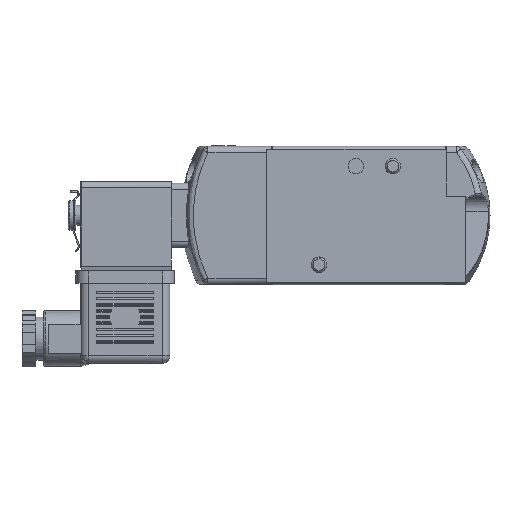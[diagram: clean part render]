
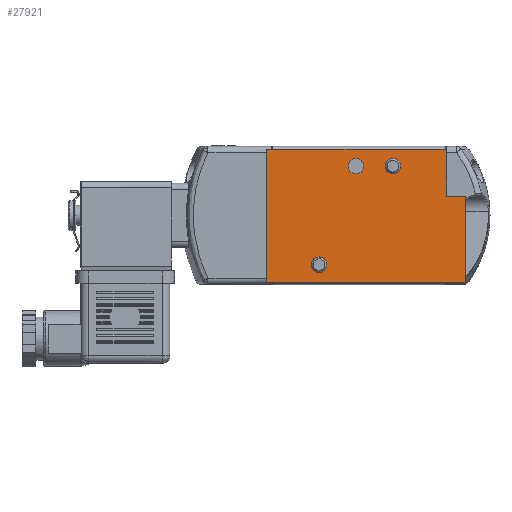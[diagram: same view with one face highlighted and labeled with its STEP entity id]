
A CAD part, front view. The second image highlights one B-rep face of the part: STEP entity #27921.
In plain terms, the highlighted planar face has unit normal (0, -1, 0) as drawn and (0, 0, -1) by its records, which use the part's own axes.
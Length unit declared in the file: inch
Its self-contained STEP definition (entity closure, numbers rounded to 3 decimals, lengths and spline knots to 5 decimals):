
#452 = CARTESIAN_POINT ( 'NONE',  ( -1.15, -0.85, 0. ) ) ;
#484 = EDGE_LOOP ( 'NONE', ( #27133, #13539, #15127, #22185, #4421, #15513 ) ) ;
#597 = FACE_BOUND ( 'NONE', #9701, .T. ) ;
#1103 = EDGE_CURVE ( 'NONE', #19065, #1331, #13565, .T. ) ;
#1110 = CARTESIAN_POINT ( 'NONE',  ( -0.58, 0.625, 0. ) ) ;
#1149 = EDGE_CURVE ( 'NONE', #22228, #34088, #20203, .T. ) ;
#1331 = VERTEX_POINT ( 'NONE', #35411 ) ;
#1804 = EDGE_LOOP ( 'NONE', ( #25902, #3736 ) ) ;
#2056 = VERTEX_POINT ( 'NONE', #10187 ) ;
#2729 = AXIS2_PLACEMENT_3D ( 'NONE', #23150, #11717, #34083 ) ;
#2733 = CARTESIAN_POINT ( 'NONE',  ( -1.15, -0.85, 0. ) ) ;
#3736 = ORIENTED_EDGE ( 'NONE', *, *, #12828, .T. ) ;
#4253 = LINE ( 'NONE', #26393, #16836 ) ;
#4421 = ORIENTED_EDGE ( 'NONE', *, *, #16964, .F. ) ;
#4550 = AXIS2_PLACEMENT_3D ( 'NONE', #22570, #33501, #25076 ) ;
#4743 = AXIS2_PLACEMENT_3D ( 'NONE', #22346, #6135, #19822 ) ;
#4943 = VECTOR ( 'NONE', #32996, 39.37008 ) ;
#4966 = VERTEX_POINT ( 'NONE', #1110 ) ;
#5108 = CARTESIAN_POINT ( 'NONE',  ( -0.48, 0.625, 0. ) ) ;
#5602 = VERTEX_POINT ( 'NONE', #8388 ) ;
#6135 = DIRECTION ( 'NONE',  ( 0., 0., 1. ) ) ;
#6506 = CARTESIAN_POINT ( 'NONE',  ( -1.15, -0.85, 0. ) ) ;
#8076 = VECTOR ( 'NONE', #16478, 39.37008 ) ;
#8114 = VECTOR ( 'NONE', #12294, 39.37008 ) ;
#8388 = CARTESIAN_POINT ( 'NONE',  ( 1.39615, -0.25, 0. ) ) ;
#8722 = FACE_BOUND ( 'NONE', #17486, .T. ) ;
#9086 = AXIS2_PLACEMENT_3D ( 'NONE', #18456, #29585, #35487 ) ;
#9701 = EDGE_LOOP ( 'NONE', ( #29691, #19854 ) ) ;
#10187 = CARTESIAN_POINT ( 'NONE',  ( 1.15, -0.25, 0. ) ) ;
#10346 = DIRECTION ( 'NONE',  ( 0., 0., 1. ) ) ;
#10816 = CIRCLE ( 'NONE', #2729, 0.1 ) ;
#11160 = CARTESIAN_POINT ( 'NONE',  ( 1.15, -0.85, 0. ) ) ;
#11595 = VECTOR ( 'NONE', #13745, 39.37008 ) ;
#11717 = DIRECTION ( 'NONE',  ( 0., 0., 1. ) ) ;
#11761 = CARTESIAN_POINT ( 'NONE',  ( 1.39615, 0.85, 0. ) ) ;
#11909 = DIRECTION ( 'NONE',  ( -1., 0., 0. ) ) ;
#12145 = VERTEX_POINT ( 'NONE', #27408 ) ;
#12294 = DIRECTION ( 'NONE',  ( 1., 0., 0. ) ) ;
#12693 = EDGE_CURVE ( 'NONE', #28618, #12145, #15720, .T. ) ;
#12828 = EDGE_CURVE ( 'NONE', #15020, #16859, #27763, .T. ) ;
#13114 = CARTESIAN_POINT ( 'NONE',  ( 1.39615, -0.25, 0. ) ) ;
#13539 = ORIENTED_EDGE ( 'NONE', *, *, #1149, .F. ) ;
#13565 = LINE ( 'NONE', #22176, #11595 ) ;
#13745 = DIRECTION ( 'NONE',  ( -1., 0., 0. ) ) ;
#14295 = CIRCLE ( 'NONE', #34335, 0.1 ) ;
#14402 = ORIENTED_EDGE ( 'NONE', *, *, #12693, .T. ) ;
#15020 = VERTEX_POINT ( 'NONE', #25859 ) ;
#15127 = ORIENTED_EDGE ( 'NONE', *, *, #34684, .F. ) ;
#15271 = DIRECTION ( 'NONE',  ( 0., 1., 0. ) ) ;
#15332 = CARTESIAN_POINT ( 'NONE',  ( 0.5649, -0.635, 0. ) ) ;
#15513 = ORIENTED_EDGE ( 'NONE', *, *, #31901, .T. ) ;
#15720 = CIRCLE ( 'NONE', #4743, 0.1 ) ;
#16478 = DIRECTION ( 'NONE',  ( 0., 1., 0. ) ) ;
#16629 = DIRECTION ( 'NONE',  ( 0., -1., 0. ) ) ;
#16836 = VECTOR ( 'NONE', #15271, 39.37008 ) ;
#16859 = VERTEX_POINT ( 'NONE', #30538 ) ;
#16964 = EDGE_CURVE ( 'NONE', #5602, #19065, #4253, .T. ) ;
#17146 = CIRCLE ( 'NONE', #9086, 0.1 ) ;
#17486 = EDGE_LOOP ( 'NONE', ( #14402, #19396 ) ) ;
#17497 = EDGE_CURVE ( 'NONE', #33432, #4966, #30630, .T. ) ;
#17668 = CARTESIAN_POINT ( 'NONE',  ( -0.0075, -0.635, 0. ) ) ;
#18456 = CARTESIAN_POINT ( 'NONE',  ( 0.4649, -0.635, 0. ) ) ;
#18762 = CARTESIAN_POINT ( 'NONE',  ( -0.38, 0.625, 0. ) ) ;
#19065 = VERTEX_POINT ( 'NONE', #11761 ) ;
#19333 = CARTESIAN_POINT ( 'NONE',  ( 1.15, -0.85, 0. ) ) ;
#19396 = ORIENTED_EDGE ( 'NONE', *, *, #26074, .T. ) ;
#19822 = DIRECTION ( 'NONE',  ( -1., 0., 0. ) ) ;
#19854 = ORIENTED_EDGE ( 'NONE', *, *, #26712, .T. ) ;
#20203 = LINE ( 'NONE', #6506, #8114 ) ;
#21860 = DIRECTION ( 'NONE',  ( -1., 0., 0. ) ) ;
#22176 = CARTESIAN_POINT ( 'NONE',  ( -1.15, 0.85, 0. ) ) ;
#22185 = ORIENTED_EDGE ( 'NONE', *, *, #1103, .F. ) ;
#22201 = PLANE ( 'NONE',  #4550 ) ;
#22228 = VERTEX_POINT ( 'NONE', #452 ) ;
#22346 = CARTESIAN_POINT ( 'NONE',  ( 0.4649, -0.635, 0. ) ) ;
#22570 = CARTESIAN_POINT ( 'NONE',  ( 1.15, 0.85, 0. ) ) ;
#23052 = DIRECTION ( 'NONE',  ( 0., 0., 1. ) ) ;
#23150 = CARTESIAN_POINT ( 'NONE',  ( -0.0075, -0.635, 0. ) ) ;
#23893 = LINE ( 'NONE', #13114, #4943 ) ;
#24218 = LINE ( 'NONE', #19333, #8076 ) ;
#24252 = FACE_OUTER_BOUND ( 'NONE', #484, .T. ) ;
#25076 = DIRECTION ( 'NONE',  ( -1., 0., 0. ) ) ;
#25859 = CARTESIAN_POINT ( 'NONE',  ( -0.1075, -0.635, 0. ) ) ;
#25902 = ORIENTED_EDGE ( 'NONE', *, *, #33783, .T. ) ;
#26074 = EDGE_CURVE ( 'NONE', #12145, #28618, #17146, .T. ) ;
#26393 = CARTESIAN_POINT ( 'NONE',  ( 1.39615, -0.25, 0. ) ) ;
#26637 = AXIS2_PLACEMENT_3D ( 'NONE', #17668, #23052, #11909 ) ;
#26712 = EDGE_CURVE ( 'NONE', #4966, #33432, #14295, .T. ) ;
#27133 = ORIENTED_EDGE ( 'NONE', *, *, #29491, .F. ) ;
#27389 = LINE ( 'NONE', #2733, #35506 ) ;
#27408 = CARTESIAN_POINT ( 'NONE',  ( 0.3649, -0.635, 0. ) ) ;
#27763 = CIRCLE ( 'NONE', #26637, 0.1 ) ;
#27921 = ADVANCED_FACE ( 'NONE', ( #33322, #8722, #597, #24252 ), #22201, .T. ) ;
#28618 = VERTEX_POINT ( 'NONE', #15332 ) ;
#29491 = EDGE_CURVE ( 'NONE', #34088, #2056, #24218, .T. ) ;
#29585 = DIRECTION ( 'NONE',  ( 0., 0., 1. ) ) ;
#29691 = ORIENTED_EDGE ( 'NONE', *, *, #17497, .T. ) ;
#30538 = CARTESIAN_POINT ( 'NONE',  ( 0.0925, -0.635, 0. ) ) ;
#30630 = CIRCLE ( 'NONE', #31766, 0.1 ) ;
#31766 = AXIS2_PLACEMENT_3D ( 'NONE', #5108, #10346, #21860 ) ;
#31901 = EDGE_CURVE ( 'NONE', #5602, #2056, #23893, .T. ) ;
#32469 = CARTESIAN_POINT ( 'NONE',  ( -0.48, 0.625, 0. ) ) ;
#32996 = DIRECTION ( 'NONE',  ( -1., 0., 0. ) ) ;
#33322 = FACE_BOUND ( 'NONE', #1804, .T. ) ;
#33432 = VERTEX_POINT ( 'NONE', #18762 ) ;
#33501 = DIRECTION ( 'NONE',  ( 0., 0., -1. ) ) ;
#33783 = EDGE_CURVE ( 'NONE', #16859, #15020, #10816, .T. ) ;
#34083 = DIRECTION ( 'NONE',  ( -1., 0., 0. ) ) ;
#34088 = VERTEX_POINT ( 'NONE', #11160 ) ;
#34335 = AXIS2_PLACEMENT_3D ( 'NONE', #32469, #35541, #35179 ) ;
#34684 = EDGE_CURVE ( 'NONE', #1331, #22228, #27389, .T. ) ;
#35179 = DIRECTION ( 'NONE',  ( -1., 0., 0. ) ) ;
#35411 = CARTESIAN_POINT ( 'NONE',  ( -1.15, 0.85, 0. ) ) ;
#35487 = DIRECTION ( 'NONE',  ( -1., 0., 0. ) ) ;
#35506 = VECTOR ( 'NONE', #16629, 39.37008 ) ;
#35541 = DIRECTION ( 'NONE',  ( 0., 0., 1. ) ) ;
